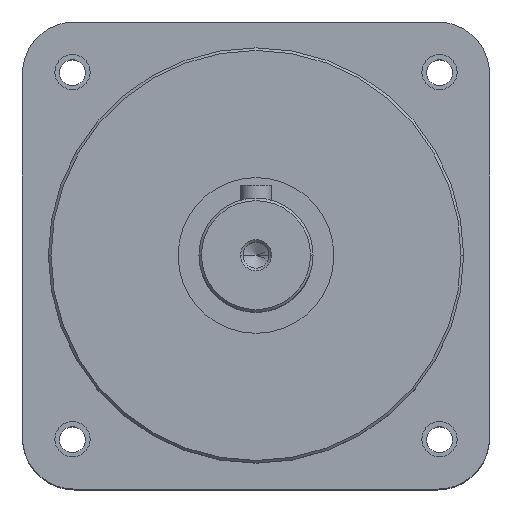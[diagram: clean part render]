
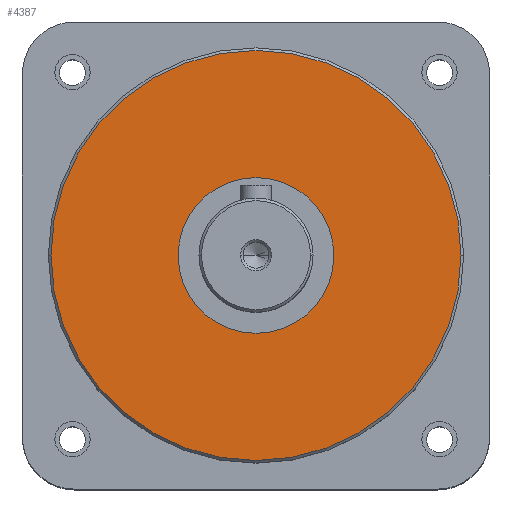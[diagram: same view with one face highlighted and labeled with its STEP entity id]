
A CAD part, top view. The second image highlights one B-rep face of the part: STEP entity #4387.
In plain terms, the highlighted planar face has unit normal (0, 0, 1).
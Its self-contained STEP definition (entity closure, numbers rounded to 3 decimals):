
#264 = DIRECTION ( 'NONE',  ( 1., 0., 0. ) ) ;
#325 = DIRECTION ( 'NONE',  ( 1., 0., 0. ) ) ;
#332 = DIRECTION ( 'NONE',  ( 0., 0., 1. ) ) ;
#338 = CARTESIAN_POINT ( 'NONE',  ( 0., 0., 104. ) ) ;
#432 = CARTESIAN_POINT ( 'NONE',  ( 0., 0., 104. ) ) ;
#492 = DIRECTION ( 'NONE',  ( 0., 0., 1. ) ) ;
#989 = PLANE ( 'NONE',  #2294 ) ;
#990 = CARTESIAN_POINT ( 'NONE',  ( 0., 0., 104. ) ) ;
#991 = DIRECTION ( 'NONE',  ( 0., 0., 1. ) ) ;
#992 = DIRECTION ( 'NONE',  ( 1., 0., 0. ) ) ;
#1128 = EDGE_LOOP ( 'NONE', ( #3825, #3829 ) ) ;
#1367 = CARTESIAN_POINT ( 'NONE',  ( -39.5, 0., 104. ) ) ;
#1376 = CARTESIAN_POINT ( 'NONE',  ( 39.5, 0., 104. ) ) ;
#1775 = EDGE_CURVE ( 'NONE', #3702, #3700, #3512, .T. ) ;
#1792 = EDGE_CURVE ( 'NONE', #3700, #3702, #3492, .T. ) ;
#2104 = AXIS2_PLACEMENT_3D ( 'NONE', #432, #492, #264 ) ;
#2114 = AXIS2_PLACEMENT_3D ( 'NONE', #338, #332, #325 ) ;
#2294 = AXIS2_PLACEMENT_3D ( 'NONE', #990, #991, #992 ) ;
#2640 = FACE_OUTER_BOUND ( 'NONE', #1128, .T. ) ;
#3492 = CIRCLE ( 'NONE', #2114, 39.5 ) ;
#3512 = CIRCLE ( 'NONE', #2104, 39.5 ) ;
#3700 = VERTEX_POINT ( 'NONE', #1367 ) ;
#3702 = VERTEX_POINT ( 'NONE', #1376 ) ;
#3825 = ORIENTED_EDGE ( 'NONE', *, *, #1792, .T. ) ;
#3829 = ORIENTED_EDGE ( 'NONE', *, *, #1775, .T. ) ;
#4387 = ADVANCED_FACE ( 'NONE', ( #2640 ), #989, .T. ) ;
